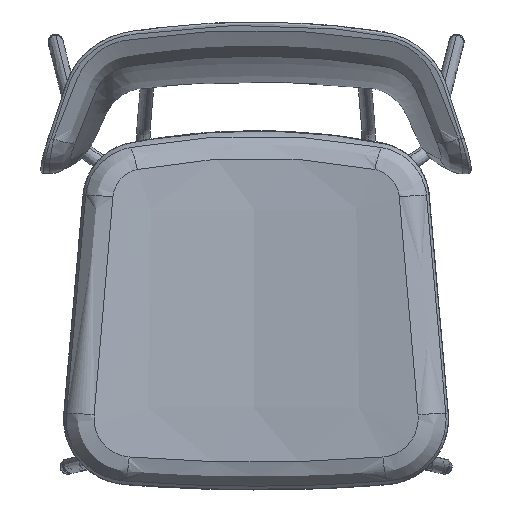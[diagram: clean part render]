
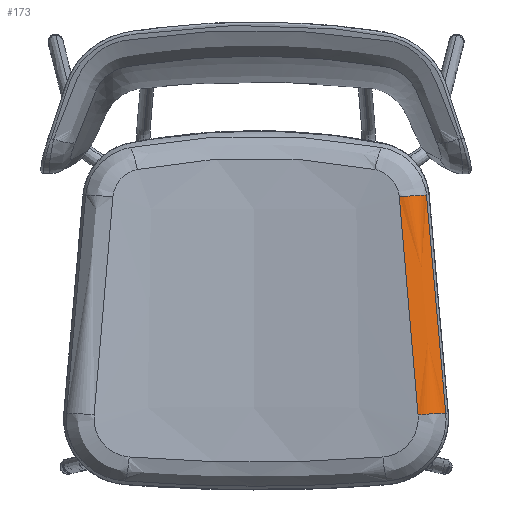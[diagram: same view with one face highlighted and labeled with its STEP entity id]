
A CAD part, top view. The second image highlights one B-rep face of the part: STEP entity #173.
In plain terms, the highlighted free-form (B-spline) face has degree [2, 3] with [3, 4] control points.
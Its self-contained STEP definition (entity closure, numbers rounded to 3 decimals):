
#173=ADVANCED_FACE('',(#295),#1947,.T.);
#295=FACE_OUTER_BOUND('',#417,.T.);
#417=EDGE_LOOP('',(#587,#588,#589,#590));
#587=ORIENTED_EDGE('',*,*,#1132,.F.);
#588=ORIENTED_EDGE('',*,*,#1134,.F.);
#589=ORIENTED_EDGE('',*,*,#1105,.F.);
#590=ORIENTED_EDGE('',*,*,#1135,.F.);
#1105=EDGE_CURVE('',#1743,#1746,#1421,.T.);
#1132=EDGE_CURVE('',#1747,#1742,#1447,.T.);
#1134=EDGE_CURVE('',#1746,#1747,#1449,.T.);
#1135=EDGE_CURVE('',#1742,#1743,#1450,.T.);
#1421=(
BOUNDED_CURVE()
B_SPLINE_CURVE(2,(#7601,#7602,#7603),.UNSPECIFIED.,.F.,.F.)
B_SPLINE_CURVE_WITH_KNOTS((3,3),(0.,1.),.UNSPECIFIED.)
CURVE()
GEOMETRIC_REPRESENTATION_ITEM()
RATIONAL_B_SPLINE_CURVE((1.,0.796,1.))
REPRESENTATION_ITEM('')
);
#1447=(
BOUNDED_CURVE()
B_SPLINE_CURVE(2,(#9961,#9962,#9963),.UNSPECIFIED.,.F.,.F.)
B_SPLINE_CURVE_WITH_KNOTS((3,3),(-1.,0.),.UNSPECIFIED.)
CURVE()
GEOMETRIC_REPRESENTATION_ITEM()
RATIONAL_B_SPLINE_CURVE((1.,0.802,1.))
REPRESENTATION_ITEM('')
);
#1449=(
BOUNDED_CURVE()
B_SPLINE_CURVE(3,(#10045,#10046,#10047,#10048),.UNSPECIFIED.,.F.,.F.)
B_SPLINE_CURVE_WITH_KNOTS((4,4),(-1359.775,-1101.4),
 .UNSPECIFIED.)
CURVE()
GEOMETRIC_REPRESENTATION_ITEM()
RATIONAL_B_SPLINE_CURVE((1.,1.,1.,1.))
REPRESENTATION_ITEM('')
);
#1450=(
BOUNDED_CURVE()
B_SPLINE_CURVE(3,(#10049,#10050,#10051,#10052),.UNSPECIFIED.,.F.,.F.)
B_SPLINE_CURVE_WITH_KNOTS((4,4),(1101.4,1359.775),
 .UNSPECIFIED.)
CURVE()
GEOMETRIC_REPRESENTATION_ITEM()
RATIONAL_B_SPLINE_CURVE((1.,1.,1.,1.))
REPRESENTATION_ITEM('')
);
#1742=VERTEX_POINT('',#7580);
#1743=VERTEX_POINT('',#7581);
#1746=VERTEX_POINT('',#7584);
#1747=VERTEX_POINT('',#7585);
#1947=(
BOUNDED_SURFACE()
B_SPLINE_SURFACE(2,3,((#7565,#7566,#7567,#7568),(#7569,#7570,#7571,#7572),
(#7573,#7574,#7575,#7576)),.UNSPECIFIED.,.F.,.F.,.F.)
B_SPLINE_SURFACE_WITH_KNOTS((3,3),(4,4),(0.,1.),(1101.4,1359.775),
 .UNSPECIFIED.)
GEOMETRIC_REPRESENTATION_ITEM()
RATIONAL_B_SPLINE_SURFACE(((1.,1.,1.,1.),(0.802,0.8,
0.798,0.796),(1.,1.,1.,1.)))
REPRESENTATION_ITEM('')
SURFACE()
);
#7565=CARTESIAN_POINT('',(4149.866,-1016.103,57.563));
#7566=CARTESIAN_POINT('',(4150.629,-1024.727,57.964));
#7567=CARTESIAN_POINT('',(4151.392,-1033.351,58.371));
#7568=CARTESIAN_POINT('',(4152.154,-1041.975,58.785));
#7569=CARTESIAN_POINT('',(4148.838,-1016.101,59.568));
#7570=CARTESIAN_POINT('',(4149.593,-1024.725,59.98));
#7571=CARTESIAN_POINT('',(4150.347,-1033.348,60.399));
#7572=CARTESIAN_POINT('',(4151.101,-1041.971,60.825));
#7573=CARTESIAN_POINT('',(4146.634,-1016.316,59.158));
#7574=CARTESIAN_POINT('',(4147.377,-1024.941,59.553));
#7575=CARTESIAN_POINT('',(4148.12,-1033.566,59.954));
#7576=CARTESIAN_POINT('',(4148.864,-1042.191,60.362));
#7580=CARTESIAN_POINT('',(4149.866,-1016.103,57.563));
#7581=CARTESIAN_POINT('',(4152.154,-1041.975,58.785));
#7584=CARTESIAN_POINT('',(4148.864,-1042.191,60.362));
#7585=CARTESIAN_POINT('',(4146.634,-1016.316,59.158));
#7601=CARTESIAN_POINT('',(4152.154,-1041.975,58.785));
#7602=CARTESIAN_POINT('',(4151.101,-1041.971,60.825));
#7603=CARTESIAN_POINT('',(4148.864,-1042.191,60.362));
#9961=CARTESIAN_POINT('',(4146.634,-1016.316,59.158));
#9962=CARTESIAN_POINT('',(4148.838,-1016.101,59.568));
#9963=CARTESIAN_POINT('',(4149.866,-1016.103,57.563));
#10045=CARTESIAN_POINT('',(4148.864,-1042.191,60.362));
#10046=CARTESIAN_POINT('',(4148.12,-1033.566,59.954));
#10047=CARTESIAN_POINT('',(4147.377,-1024.941,59.553));
#10048=CARTESIAN_POINT('',(4146.634,-1016.316,59.158));
#10049=CARTESIAN_POINT('',(4149.866,-1016.103,57.563));
#10050=CARTESIAN_POINT('',(4150.629,-1024.727,57.964));
#10051=CARTESIAN_POINT('',(4151.392,-1033.351,58.371));
#10052=CARTESIAN_POINT('',(4152.154,-1041.975,58.785));
